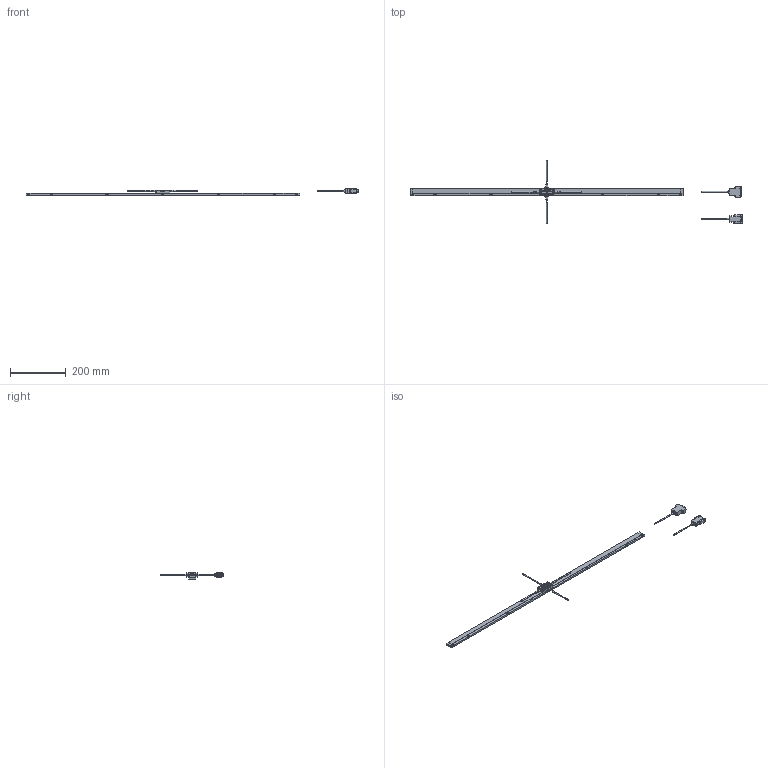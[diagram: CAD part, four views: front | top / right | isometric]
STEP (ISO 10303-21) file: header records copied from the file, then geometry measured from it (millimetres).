
FILE_DESCRIPTION(('Creo Elements/Direct Modeling STEP Export'),'2;1');
FILE_NAME('ABS_ST700-900A.stp','2018-02-14T11:19:47',(''),(''),'Creo Elements/Direct Modeling STEP processor for AP214 (Solid Model)','Creo Elements/Direct Modeling 18.1B 29-Sep-2012 (C) Parametric Technology GmbH','');
FILE_SCHEMA(('AUTOMOTIVE_DESIGN { 1 0 10303 214 1 1 1 1 }'));
Length unit declared in the file: millimetre
Products named in the file (10): Scale_900; Detector_Head_D; Detector_Head_L; Detector_Head_R; Detector_Head_U; Detector_Head; Connector（Dsub15pin）; Connector（Dsub9pin）; Connector; ABS_ST700-900A
Assembly tree (9 placements, depth 3):
  ABS_ST700-900A
    Connector
      Connector（Dsub9pin）
      Connector（Dsub15pin）
    Detector_Head
      Detector_Head_U
      Detector_Head_R
      Detector_Head_L
      Detector_Head_D
    Scale_900
Bounding box: 1189.3 x 227.7 x 23.3 mm (x, y, z)
Volume: 280391.7 mm3; surface area: 102746.8 mm2
Topology: 7 solids, 7 shells, 6696 faces, 18338 edges, 12084 vertices
Faces by surface type: plane 5258, cylinder 1167, cone 145, torus 58, extrusion 36, bspline 24, revolution 8
Entity records: 214530 total; most frequent: CARTESIAN_POINT 44394, ORIENTED_EDGE 36604, DIRECTION 33033, EDGE_CURVE 18302, VECTOR 15511, LINE 15495, VERTEX_POINT 12084, AXIS2_PLACEMENT_3D 8755
